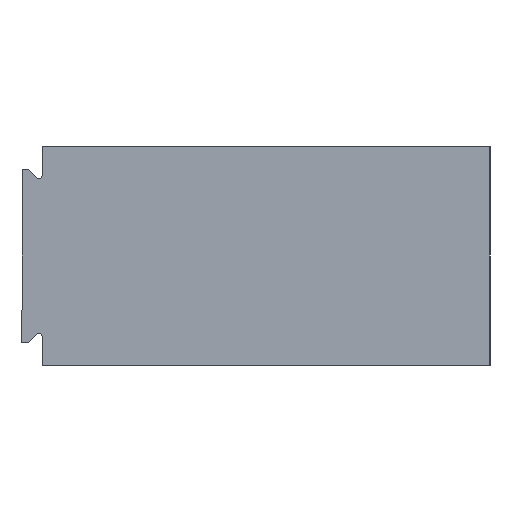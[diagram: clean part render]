
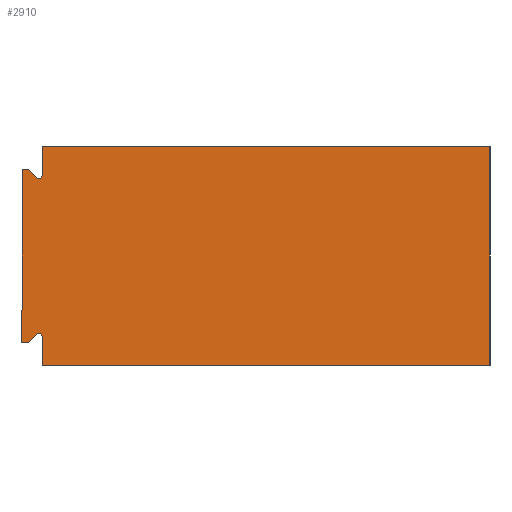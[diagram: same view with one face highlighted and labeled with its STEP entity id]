
A CAD part, left-side view. The second image highlights one B-rep face of the part: STEP entity #2910.
In plain terms, the highlighted planar face has unit normal (-1, 0, 0).
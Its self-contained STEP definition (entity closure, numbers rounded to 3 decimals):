
#29 = CARTESIAN_POINT ( 'NONE',  ( -101.6, 55.88, 27.305 ) ) ;
#63 = DIRECTION ( 'NONE',  ( 0., 1., 0. ) ) ;
#243 = CARTESIAN_POINT ( 'NONE',  ( -101.6, 55.88, 0. ) ) ;
#259 = CARTESIAN_POINT ( 'NONE',  ( -101.6, 55.88, 27.305 ) ) ;
#270 = ORIENTED_EDGE ( 'NONE', *, *, #5270, .F. ) ;
#275 = VERTEX_POINT ( 'NONE', #3067 ) ;
#436 = EDGE_CURVE ( 'NONE', #3511, #3344, #3483, .T. ) ;
#470 = CARTESIAN_POINT ( 'NONE',  ( -101.6, 57.58, 2.89 ) ) ;
#476 = CARTESIAN_POINT ( 'NONE',  ( -101.6, 58.38, 2.89 ) ) ;
#536 = CARTESIAN_POINT ( 'NONE',  ( -101.6, 58.38, 24.415 ) ) ;
#725 = EDGE_CURVE ( 'NONE', #1319, #2603, #1656, .T. ) ;
#752 = VERTEX_POINT ( 'NONE', #3357 ) ;
#807 = CARTESIAN_POINT ( 'NONE',  ( -101.6, 56.28, 23.681 ) ) ;
#818 = DIRECTION ( 'NONE',  ( 0., -1., 0. ) ) ;
#842 = DIRECTION ( 'NONE',  ( 1., 0., 0. ) ) ;
#899 = CARTESIAN_POINT ( 'NONE',  ( -101.6, 55.88, 23.681 ) ) ;
#1006 = DIRECTION ( 'NONE',  ( 0., 1., 0. ) ) ;
#1093 = ORIENTED_EDGE ( 'NONE', *, *, #3961, .T. ) ;
#1137 = CARTESIAN_POINT ( 'NONE',  ( -101.6, 0., 27.305 ) ) ;
#1276 = ORIENTED_EDGE ( 'NONE', *, *, #4747, .T. ) ;
#1319 = VERTEX_POINT ( 'NONE', #899 ) ;
#1420 = ORIENTED_EDGE ( 'NONE', *, *, #7470, .T. ) ;
#1541 = VECTOR ( 'NONE', #3360, 1000. ) ;
#1626 = LINE ( 'NONE', #476, #6938 ) ;
#1656 = CIRCLE ( 'NONE', #6761, 0.4 ) ;
#1669 = CARTESIAN_POINT ( 'NONE',  ( -101.6, 55.88, 27.305 ) ) ;
#1690 = EDGE_LOOP ( 'NONE', ( #7412, #270, #3254, #5859, #6080, #6914, #5471, #1420, #1276, #1093, #6850, #5299 ) ) ;
#1731 = VERTEX_POINT ( 'NONE', #7355 ) ;
#1755 = DIRECTION ( 'NONE',  ( 1., 0., 0. ) ) ;
#1758 = CARTESIAN_POINT ( 'NONE',  ( -101.6, 56.563, 23.398 ) ) ;
#1777 = DIRECTION ( 'NONE',  ( 0., -1., 0. ) ) ;
#1918 = LINE ( 'NONE', #6536, #2738 ) ;
#2000 = CARTESIAN_POINT ( 'NONE',  ( -101.6, 57.58, 24.415 ) ) ;
#2025 = DIRECTION ( 'NONE',  ( 0., 1., 0. ) ) ;
#2105 = DIRECTION ( 'NONE',  ( 1., 0., 0. ) ) ;
#2566 = EDGE_CURVE ( 'NONE', #3983, #3387, #3593, .T. ) ;
#2603 = VERTEX_POINT ( 'NONE', #1758 ) ;
#2738 = VECTOR ( 'NONE', #818, 1000. ) ;
#2796 = DIRECTION ( 'NONE',  ( 0., 0., -1. ) ) ;
#2861 = DIRECTION ( 'NONE',  ( 0., 0., -1. ) ) ;
#2862 = LINE ( 'NONE', #470, #3709 ) ;
#2910 = ADVANCED_FACE ( 'NONE', ( #5475 ), #3091, .F. ) ;
#2913 = DIRECTION ( 'NONE',  ( 0., 0., -1. ) ) ;
#3067 = CARTESIAN_POINT ( 'NONE',  ( -101.6, 0., 0. ) ) ;
#3091 = PLANE ( 'NONE',  #4423 ) ;
#3138 = CIRCLE ( 'NONE', #4347, 0.4 ) ;
#3254 = ORIENTED_EDGE ( 'NONE', *, *, #5979, .F. ) ;
#3338 = LINE ( 'NONE', #4776, #6915 ) ;
#3344 = VERTEX_POINT ( 'NONE', #3882 ) ;
#3357 = CARTESIAN_POINT ( 'NONE',  ( -101.6, 57.58, 2.89 ) ) ;
#3360 = DIRECTION ( 'NONE',  ( 0., 0., -1. ) ) ;
#3381 = DIRECTION ( 'NONE',  ( 0., -1., 0. ) ) ;
#3387 = VERTEX_POINT ( 'NONE', #243 ) ;
#3419 = LINE ( 'NONE', #1669, #7415 ) ;
#3483 = LINE ( 'NONE', #536, #6799 ) ;
#3511 = VERTEX_POINT ( 'NONE', #2000 ) ;
#3593 = LINE ( 'NONE', #29, #5262 ) ;
#3709 = VECTOR ( 'NONE', #5221, 1000. ) ;
#3882 = CARTESIAN_POINT ( 'NONE',  ( -101.6, 58.38, 24.415 ) ) ;
#3961 = EDGE_CURVE ( 'NONE', #752, #1731, #2862, .T. ) ;
#3983 = VERTEX_POINT ( 'NONE', #6409 ) ;
#4006 = VECTOR ( 'NONE', #7005, 1000. ) ;
#4007 = CARTESIAN_POINT ( 'NONE',  ( -101.6, 0., 27.305 ) ) ;
#4009 = CARTESIAN_POINT ( 'NONE',  ( -101.6, 56.28, 3.624 ) ) ;
#4347 = AXIS2_PLACEMENT_3D ( 'NONE', #4009, #1755, #63 ) ;
#4423 = AXIS2_PLACEMENT_3D ( 'NONE', #259, #842, #4915 ) ;
#4521 = CARTESIAN_POINT ( 'NONE',  ( -101.6, 55.88, 0. ) ) ;
#4647 = LINE ( 'NONE', #4007, #1541 ) ;
#4747 = EDGE_CURVE ( 'NONE', #5728, #752, #1918, .T. ) ;
#4776 = CARTESIAN_POINT ( 'NONE',  ( -101.6, 55.88, 27.305 ) ) ;
#4915 = DIRECTION ( 'NONE',  ( 0., 1., 0. ) ) ;
#5101 = CARTESIAN_POINT ( 'NONE',  ( -101.6, 55.88, 27.305 ) ) ;
#5221 = DIRECTION ( 'NONE',  ( 0., -0.707, 0.707 ) ) ;
#5262 = VECTOR ( 'NONE', #2861, 1000. ) ;
#5270 = EDGE_CURVE ( 'NONE', #6702, #275, #4647, .T. ) ;
#5299 = ORIENTED_EDGE ( 'NONE', *, *, #2566, .T. ) ;
#5471 = ORIENTED_EDGE ( 'NONE', *, *, #436, .T. ) ;
#5475 = FACE_OUTER_BOUND ( 'NONE', #1690, .T. ) ;
#5697 = LINE ( 'NONE', #7563, #4006 ) ;
#5728 = VERTEX_POINT ( 'NONE', #5863 ) ;
#5859 = ORIENTED_EDGE ( 'NONE', *, *, #7055, .T. ) ;
#5863 = CARTESIAN_POINT ( 'NONE',  ( -101.6, 58.38, 2.89 ) ) ;
#5979 = EDGE_CURVE ( 'NONE', #6152, #6702, #3338, .T. ) ;
#6080 = ORIENTED_EDGE ( 'NONE', *, *, #725, .T. ) ;
#6152 = VERTEX_POINT ( 'NONE', #5101 ) ;
#6327 = EDGE_CURVE ( 'NONE', #1731, #3983, #3138, .T. ) ;
#6347 = LINE ( 'NONE', #4521, #7054 ) ;
#6409 = CARTESIAN_POINT ( 'NONE',  ( -101.6, 55.88, 3.624 ) ) ;
#6536 = CARTESIAN_POINT ( 'NONE',  ( -101.6, 58.38, 2.89 ) ) ;
#6702 = VERTEX_POINT ( 'NONE', #1137 ) ;
#6761 = AXIS2_PLACEMENT_3D ( 'NONE', #807, #2105, #2025 ) ;
#6799 = VECTOR ( 'NONE', #1006, 1000. ) ;
#6850 = ORIENTED_EDGE ( 'NONE', *, *, #6327, .T. ) ;
#6914 = ORIENTED_EDGE ( 'NONE', *, *, #7460, .T. ) ;
#6915 = VECTOR ( 'NONE', #3381, 1000. ) ;
#6938 = VECTOR ( 'NONE', #2796, 1000. ) ;
#7005 = DIRECTION ( 'NONE',  ( 0., 0.707, 0.707 ) ) ;
#7054 = VECTOR ( 'NONE', #1777, 1000. ) ;
#7055 = EDGE_CURVE ( 'NONE', #6152, #1319, #3419, .T. ) ;
#7091 = EDGE_CURVE ( 'NONE', #3387, #275, #6347, .T. ) ;
#7355 = CARTESIAN_POINT ( 'NONE',  ( -101.6, 56.563, 3.907 ) ) ;
#7412 = ORIENTED_EDGE ( 'NONE', *, *, #7091, .T. ) ;
#7415 = VECTOR ( 'NONE', #2913, 1000. ) ;
#7460 = EDGE_CURVE ( 'NONE', #2603, #3511, #5697, .T. ) ;
#7470 = EDGE_CURVE ( 'NONE', #3344, #5728, #1626, .T. ) ;
#7563 = CARTESIAN_POINT ( 'NONE',  ( -101.6, 57.58, 24.415 ) ) ;
